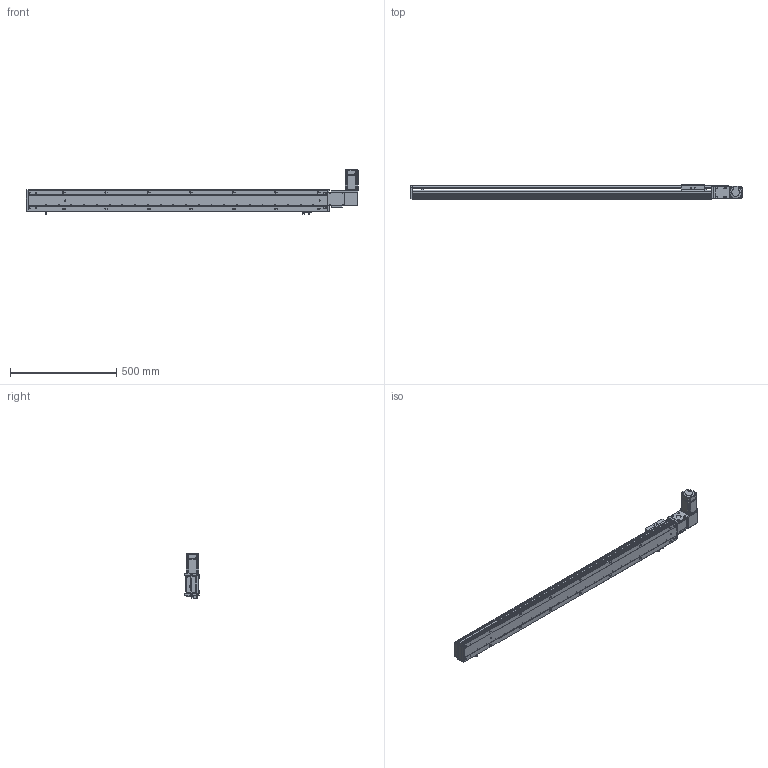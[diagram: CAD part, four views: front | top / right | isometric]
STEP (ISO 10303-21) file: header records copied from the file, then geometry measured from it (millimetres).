
FILE_DESCRIPTION (( 'STEP AP203' ), '1' );
FILE_NAME ('RY100-T-300-RK.SLDASM_1200.step', '2024-04-25T08:22:52', ( '盈信电脑' ), ( '东莞市道滘镇水果街19号' ), 'SwSTEP 2.0', 'SolidWorks 2016', '' );
FILE_SCHEMA (( 'CONFIG_CONTROL_DESIGN' ));
Length unit declared in the file: millimetre
Products named in the file (15): RY80-T肮祭謫俋欶; RY100-T肮祭謫翋盓傅釱; RY100-T-300-RK.SLDASM_1200; RY100-T翋肮祭謫裔啣2; RY100-T-300-RK倰第菁釱_1200; 1; 侂狟200W萇儂; 滅袉蝶18-10; RY100-T-300-RK倰第奻裔_1200; RY100俋离覜茼え; RY100-T肮祭謫臏賑輸; RY100-T粣創揤踡裔; RY100-T左右折电机安装板; 覜茼ん672; RY100綴裔啣
Assembly tree (18 placements, depth 3):
  RY100-T-300-RK.SLDASM_1200
    RY100-T-300-RK倰第菁釱_1200
    RY100-T-300-RK倰第奻裔_1200
    RY100-T肮祭謫臏賑輸
    RY100綴裔啣
    覜茼ん672  x3
    RY100俋离覜茼え
    RY100-T肮祭謫翋盓傅釱
    RY100-T左右折电机安装板
    侂狟200W萇儂
      1
    RY100-T粣創揤踡裔
    滅袉蝶18-10  x2
    RY100-T翋肮祭謫裔啣2  x2
    RY80-T肮祭謫俋欶
Bounding box: 1564 x 66 x 209.7 mm (x, y, z)
Volume: 2946521.5 mm3; surface area: 1220031 mm2
Topology: 17 solids, 17 shells, 2189 faces, 6093 edges, 3961 vertices
Faces by surface type: plane 1189, cylinder 791, cone 131, bspline 78
Entity records: 69979 total; most frequent: CARTESIAN_POINT 16871, ORIENTED_EDGE 10922, DIRECTION 10401, EDGE_CURVE 5461, VERTEX_POINT 3597, VECTOR 3533, LINE 3533, AXIS2_PLACEMENT_3D 3434
